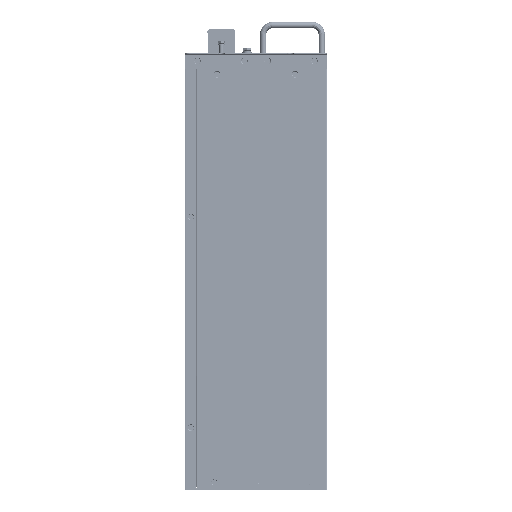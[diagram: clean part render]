
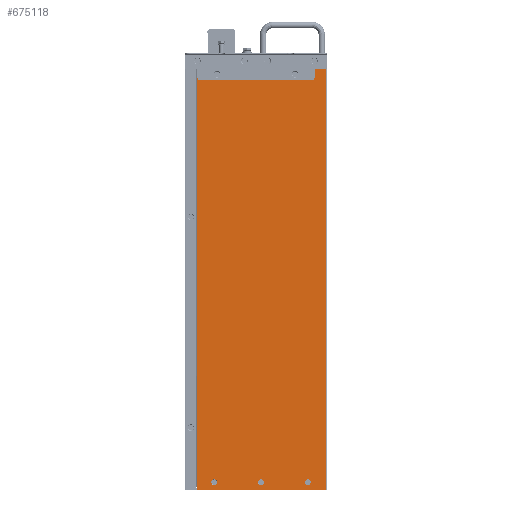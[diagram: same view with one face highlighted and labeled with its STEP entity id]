
A CAD part, left-side view. The second image highlights one B-rep face of the part: STEP entity #675118.
In plain terms, the highlighted planar face has unit normal (-1, 0, 0).
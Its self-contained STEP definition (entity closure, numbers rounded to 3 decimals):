
#2090 = EDGE_CURVE ( 'NONE', #160173, #593712, #708574, .T. ) ;
#4000 = LINE ( 'NONE', #714262, #625860 ) ;
#5706 = VERTEX_POINT ( 'NONE', #56830 ) ;
#8586 = DIRECTION ( 'NONE',  ( 1., 0., 0. ) ) ;
#10505 = CARTESIAN_POINT ( 'NONE',  ( -220., 1.7, 270. ) ) ;
#10956 = ORIENTED_EDGE ( 'NONE', *, *, #531314, .T. ) ;
#14770 = FACE_BOUND ( 'NONE', #224726, .T. ) ;
#40545 = AXIS2_PLACEMENT_3D ( 'NONE', #611197, #211701, #723046 ) ;
#50489 = FACE_OUTER_BOUND ( 'NONE', #57313, .T. ) ;
#51194 = CIRCLE ( 'NONE', #40545, 2.7 ) ;
#51810 = VERTEX_POINT ( 'NONE', #479174 ) ;
#56830 = CARTESIAN_POINT ( 'NONE',  ( -220., 144.2, 263. ) ) ;
#57313 = EDGE_LOOP ( 'NONE', ( #10956, #289848, #708743, #115717 ) ) ;
#63799 = VERTEX_POINT ( 'NONE', #241279 ) ;
#65730 = EDGE_CURVE ( 'NONE', #653567, #640341, #463570, .T. ) ;
#82290 = DIRECTION ( 'NONE',  ( 0., 1., 0. ) ) ;
#83411 = DIRECTION ( 'NONE',  ( 0., -1., 0. ) ) ;
#90385 = DIRECTION ( 'NONE',  ( 0., 1., 0. ) ) ;
#90694 = ORIENTED_EDGE ( 'NONE', *, *, #2090, .T. ) ;
#97199 = EDGE_CURVE ( 'NONE', #5706, #626586, #490805, .T. ) ;
#104258 = AXIS2_PLACEMENT_3D ( 'NONE', #332069, #560348, #729257 ) ;
#107964 = CIRCLE ( 'NONE', #671003, 3.75 ) ;
#108122 = AXIS2_PLACEMENT_3D ( 'NONE', #574596, #8586, #298894 ) ;
#109249 = EDGE_CURVE ( 'NONE', #257215, #482274, #635759, .T. ) ;
#109409 = CARTESIAN_POINT ( 'NONE',  ( -220., 25., -260. ) ) ;
#115717 = ORIENTED_EDGE ( 'NONE', *, *, #329096, .T. ) ;
#117192 = ORIENTED_EDGE ( 'NONE', *, *, #657116, .T. ) ;
#132167 = DIRECTION ( 'NONE',  ( 0., 1., 0. ) ) ;
#138147 = DIRECTION ( 'NONE',  ( 1., 0., 0. ) ) ;
#141659 = VERTEX_POINT ( 'NONE', #720974 ) ;
#151649 = CIRCLE ( 'NONE', #104258, 3.75 ) ;
#153411 = AXIS2_PLACEMENT_3D ( 'NONE', #718319, #599171, #90385 ) ;
#159905 = EDGE_CURVE ( 'NONE', #640341, #653567, #252596, .T. ) ;
#160173 = VERTEX_POINT ( 'NONE', #232107 ) ;
#187370 = AXIS2_PLACEMENT_3D ( 'NONE', #226772, #231665, #224366 ) ;
#192125 = VECTOR ( 'NONE', #83411, 1000. ) ;
#192560 = AXIS2_PLACEMENT_3D ( 'NONE', #109409, #322705, #206084 ) ;
#200116 = CARTESIAN_POINT ( 'NONE',  ( -220., 145., -260. ) ) ;
#206084 = DIRECTION ( 'NONE',  ( 0., 1., 0. ) ) ;
#211701 = DIRECTION ( 'NONE',  ( 1., 0., 0. ) ) ;
#224366 = DIRECTION ( 'NONE',  ( 0., 1., 0. ) ) ;
#224726 = EDGE_LOOP ( 'NONE', ( #272837, #117192 ) ) ;
#226772 = CARTESIAN_POINT ( 'NONE',  ( -220., 141.5, 263. ) ) ;
#231665 = DIRECTION ( 'NONE',  ( 1., 0., 0. ) ) ;
#232107 = CARTESIAN_POINT ( 'NONE',  ( -220., 44.2, 263. ) ) ;
#235907 = DIRECTION ( 'NONE',  ( 0., 1., 0. ) ) ;
#241279 = CARTESIAN_POINT ( 'NONE',  ( -220., 81.25, -260. ) ) ;
#245667 = CARTESIAN_POINT ( 'NONE',  ( -220., 167.032, -270. ) ) ;
#252596 = CIRCLE ( 'NONE', #420362, 3.75 ) ;
#257215 = VERTEX_POINT ( 'NONE', #640277 ) ;
#257516 = DIRECTION ( 'NONE',  ( 0., 0., -1. ) ) ;
#272837 = ORIENTED_EDGE ( 'NONE', *, *, #614214, .T. ) ;
#287086 = LINE ( 'NONE', #514293, #571353 ) ;
#289848 = ORIENTED_EDGE ( 'NONE', *, *, #649490, .F. ) ;
#291651 = VERTEX_POINT ( 'NONE', #299277 ) ;
#295530 = CARTESIAN_POINT ( 'NONE',  ( -220., 38.8, 263. ) ) ;
#298894 = DIRECTION ( 'NONE',  ( 0., 1., 0. ) ) ;
#299277 = CARTESIAN_POINT ( 'NONE',  ( -220., 88.75, -260. ) ) ;
#300369 = DIRECTION ( 'NONE',  ( 1., 0., 0. ) ) ;
#318697 = VERTEX_POINT ( 'NONE', #475599 ) ;
#322289 = CARTESIAN_POINT ( 'NONE',  ( -220., 21.25, -260. ) ) ;
#322705 = DIRECTION ( 'NONE',  ( 1., 0., 0. ) ) ;
#329096 = EDGE_CURVE ( 'NONE', #141659, #330895, #4000, .T. ) ;
#330895 = VERTEX_POINT ( 'NONE', #245667 ) ;
#332069 = CARTESIAN_POINT ( 'NONE',  ( -220., 85., -260. ) ) ;
#341616 = PLANE ( 'NONE',  #711537 ) ;
#344340 = EDGE_CURVE ( 'NONE', #318697, #141659, #287086, .T. ) ;
#363949 = AXIS2_PLACEMENT_3D ( 'NONE', #526895, #472262, #132167 ) ;
#366518 = DIRECTION ( 'NONE',  ( 0., 1., 0. ) ) ;
#366838 = CARTESIAN_POINT ( 'NONE',  ( -220., 138.8, 263. ) ) ;
#374380 = ORIENTED_EDGE ( 'NONE', *, *, #555303, .T. ) ;
#375480 = AXIS2_PLACEMENT_3D ( 'NONE', #464395, #300369, #235907 ) ;
#376049 = ORIENTED_EDGE ( 'NONE', *, *, #667244, .T. ) ;
#400394 = CIRCLE ( 'NONE', #363949, 3.75 ) ;
#402496 = DIRECTION ( 'NONE',  ( 0., 1., 0. ) ) ;
#418521 = CARTESIAN_POINT ( 'NONE',  ( -220., 0., -270. ) ) ;
#420362 = AXIS2_PLACEMENT_3D ( 'NONE', #422245, #429564, #82290 ) ;
#421890 = ORIENTED_EDGE ( 'NONE', *, *, #97199, .T. ) ;
#422245 = CARTESIAN_POINT ( 'NONE',  ( -220., 25., -260. ) ) ;
#429564 = DIRECTION ( 'NONE',  ( 1., 0., 0. ) ) ;
#430544 = EDGE_LOOP ( 'NONE', ( #706236, #554213 ) ) ;
#450120 = FACE_BOUND ( 'NONE', #624624, .T. ) ;
#453934 = ORIENTED_EDGE ( 'NONE', *, *, #598956, .T. ) ;
#463570 = CIRCLE ( 'NONE', #192560, 3.75 ) ;
#464395 = CARTESIAN_POINT ( 'NONE',  ( -220., 141.5, 263. ) ) ;
#465509 = VECTOR ( 'NONE', #646273, 1000. ) ;
#467926 = FACE_BOUND ( 'NONE', #430544, .T. ) ;
#472262 = DIRECTION ( 'NONE',  ( 1., 0., 0. ) ) ;
#475599 = CARTESIAN_POINT ( 'NONE',  ( -220., 1.7, 270. ) ) ;
#479174 = CARTESIAN_POINT ( 'NONE',  ( -220., 1.7, -270. ) ) ;
#482274 = VERTEX_POINT ( 'NONE', #724091 ) ;
#490805 = CIRCLE ( 'NONE', #187370, 2.7 ) ;
#514293 = CARTESIAN_POINT ( 'NONE',  ( -220., 0., 270. ) ) ;
#517833 = DIRECTION ( 'NONE',  ( 0., 1., 0. ) ) ;
#526895 = CARTESIAN_POINT ( 'NONE',  ( -220., 85., -260. ) ) ;
#531314 = EDGE_CURVE ( 'NONE', #330895, #51810, #698619, .T. ) ;
#553662 = EDGE_LOOP ( 'NONE', ( #90694, #374380 ) ) ;
#554213 = ORIENTED_EDGE ( 'NONE', *, *, #65730, .T. ) ;
#555303 = EDGE_CURVE ( 'NONE', #593712, #160173, #51194, .T. ) ;
#560348 = DIRECTION ( 'NONE',  ( 1., 0., 0. ) ) ;
#571353 = VECTOR ( 'NONE', #402496, 1000. ) ;
#574596 = CARTESIAN_POINT ( 'NONE',  ( -220., 145., -260. ) ) ;
#577278 = CARTESIAN_POINT ( 'NONE',  ( -220., 0., 0. ) ) ;
#580227 = EDGE_LOOP ( 'NONE', ( #421890, #376049 ) ) ;
#593712 = VERTEX_POINT ( 'NONE', #295530 ) ;
#598956 = EDGE_CURVE ( 'NONE', #482274, #257215, #107964, .T. ) ;
#599171 = DIRECTION ( 'NONE',  ( 1., 0., 0. ) ) ;
#611197 = CARTESIAN_POINT ( 'NONE',  ( -220., 41.5, 263. ) ) ;
#614214 = EDGE_CURVE ( 'NONE', #291651, #63799, #400394, .T. ) ;
#616397 = LINE ( 'NONE', #10505, #465509 ) ;
#624624 = EDGE_LOOP ( 'NONE', ( #690963, #453934 ) ) ;
#625860 = VECTOR ( 'NONE', #257516, 1000. ) ;
#626586 = VERTEX_POINT ( 'NONE', #366838 ) ;
#627010 = DIRECTION ( 'NONE',  ( -1., 0., 0. ) ) ;
#635759 = CIRCLE ( 'NONE', #108122, 3.75 ) ;
#640277 = CARTESIAN_POINT ( 'NONE',  ( -220., 148.75, -260. ) ) ;
#640341 = VERTEX_POINT ( 'NONE', #663471 ) ;
#646273 = DIRECTION ( 'NONE',  ( 0., 0., -1. ) ) ;
#649490 = EDGE_CURVE ( 'NONE', #318697, #51810, #616397, .T. ) ;
#653567 = VERTEX_POINT ( 'NONE', #322289 ) ;
#657116 = EDGE_CURVE ( 'NONE', #63799, #291651, #151649, .T. ) ;
#663471 = CARTESIAN_POINT ( 'NONE',  ( -220., 28.75, -260. ) ) ;
#664692 = CIRCLE ( 'NONE', #375480, 2.7 ) ;
#667244 = EDGE_CURVE ( 'NONE', #626586, #5706, #664692, .T. ) ;
#671003 = AXIS2_PLACEMENT_3D ( 'NONE', #200116, #138147, #366518 ) ;
#675118 = ADVANCED_FACE ( 'NONE', ( #50489, #467926, #14770, #450120, #698817, #734317 ), #341616, .T. ) ;
#690963 = ORIENTED_EDGE ( 'NONE', *, *, #109249, .T. ) ;
#698619 = LINE ( 'NONE', #418521, #192125 ) ;
#698817 = FACE_BOUND ( 'NONE', #553662, .T. ) ;
#706236 = ORIENTED_EDGE ( 'NONE', *, *, #159905, .T. ) ;
#708574 = CIRCLE ( 'NONE', #153411, 2.7 ) ;
#708743 = ORIENTED_EDGE ( 'NONE', *, *, #344340, .T. ) ;
#711537 = AXIS2_PLACEMENT_3D ( 'NONE', #577278, #627010, #517833 ) ;
#714262 = CARTESIAN_POINT ( 'NONE',  ( -220., 167.032, 0. ) ) ;
#718319 = CARTESIAN_POINT ( 'NONE',  ( -220., 41.5, 263. ) ) ;
#720974 = CARTESIAN_POINT ( 'NONE',  ( -220., 167.032, 270. ) ) ;
#723046 = DIRECTION ( 'NONE',  ( 0., 1., 0. ) ) ;
#724091 = CARTESIAN_POINT ( 'NONE',  ( -220., 141.25, -260. ) ) ;
#729257 = DIRECTION ( 'NONE',  ( 0., 1., 0. ) ) ;
#734317 = FACE_BOUND ( 'NONE', #580227, .T. ) ;
